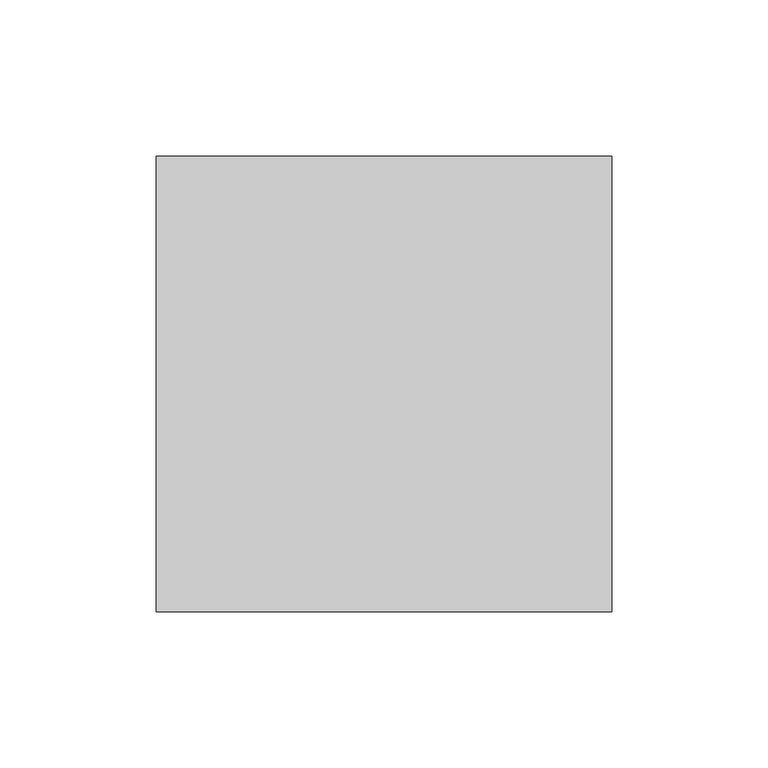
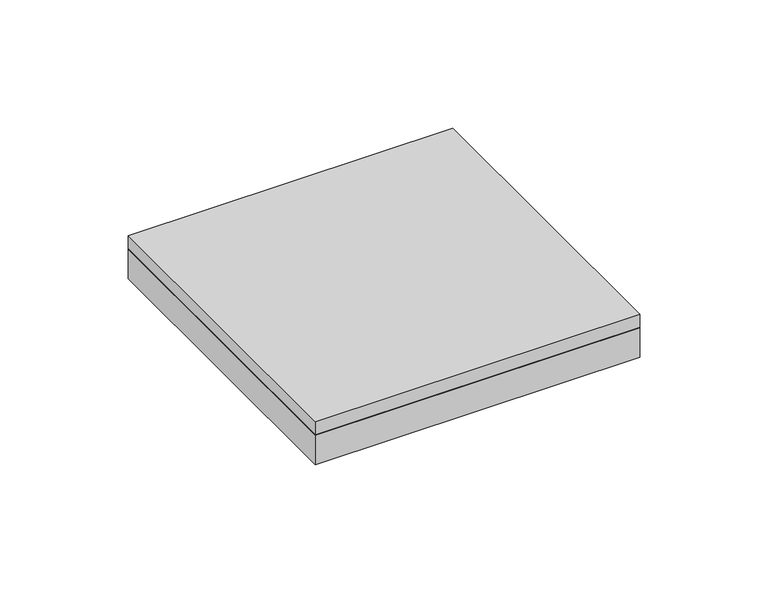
"""IFC4 building model written with IfcOpenShell, lengths in millimetres: sanitary terminal geometry, NLRS_PF_52_UN_Aqua Plus Quattro_in_uitloop_Easydrain : Aqua Plus Quattro onderuitloop 50mm, zij-ingang 40mm."""

from ifc_helpers import new_model, si_unit, frame, origin, place, context, project, spatial, polyline, outline, extrude, source, transform, mapped, element, save


def sanitary_terminal_eb8b4586(model_context):
    return source(origin(), model_context, "Body", "SweptSolid", [
        extrude(outline(polyline([(73.0, 73.0), (73.0, -73.0), (-73.0, -73.0), (-73.0, 73.0), (73.0, 73.0)])), frame((0.0, 0.0, -20.5), z_axis=(0.0, 0.0, 1.0), x_axis=(1.0, 0.0, 0.0)), (0.0, 0.0, 1.0), 14.0),
        extrude(outline(polyline([(73.0, 73.0), (73.0, -73.0), (-73.0, -73.0), (-73.0, 73.0), (73.0, 73.0)])), frame((0.0, 0.0, -6.5), z_axis=(0.0, 0.0, 1.0), x_axis=(1.0, 0.0, 0.0)), (0.0, 0.0, 1.0), 6.5),
    ])


if __name__ == "__main__":
    model = new_model("IFC4")
    model_context = context("Model", 3, world=origin())
    ifc_project = project(units=[si_unit("LENGTHUNIT", "METRE", prefix="MILLI")], contexts=[model_context])
    site = spatial("IfcSite", under=ifc_project)
    building = spatial("IfcBuilding", under=site)
    placement = place(None, origin())
    sanitary_terminal_shape = sanitary_terminal_eb8b4586(model_context)
    element("IfcSanitaryTerminal", 1, ObjectType="NLRS_PF_52_UN_Aqua Plus Quattro_in_uitloop_Easydrain : Aqua Plus Quattro onderuitloop 50mm, zij-ingang 40mm", at=placement, inside=building, context=model_context, shape_type="MappedRepresentation", body=[
        mapped(sanitary_terminal_shape, transform((0.0, 0.0, 0.0), x_axis=(1.0, 0.0, 0.0), y_axis=(0.0, 1.0, 0.0), z_axis=(0.0, 0.0, 1.0))),
    ])
    save(model, "model.ifc")
